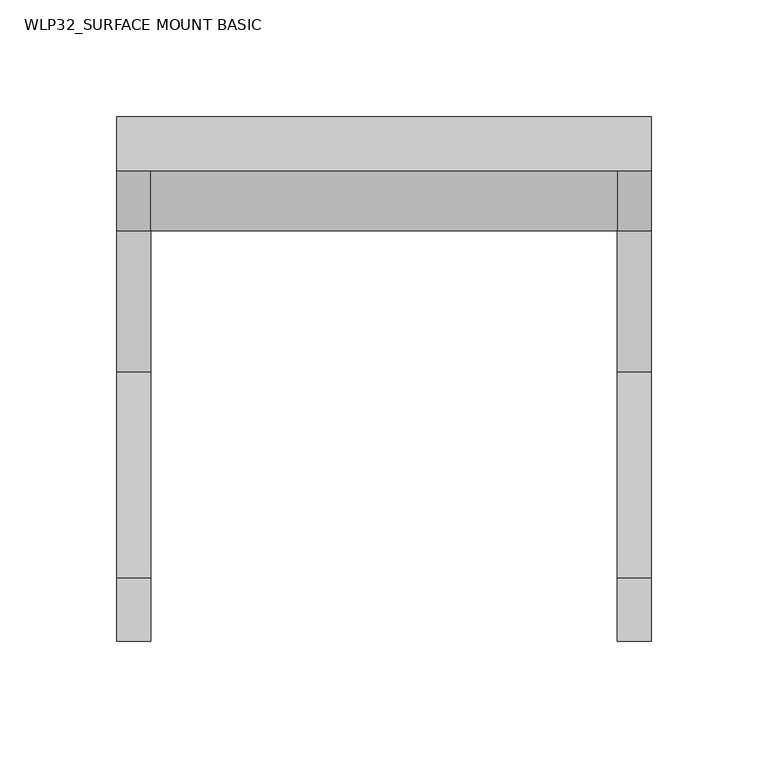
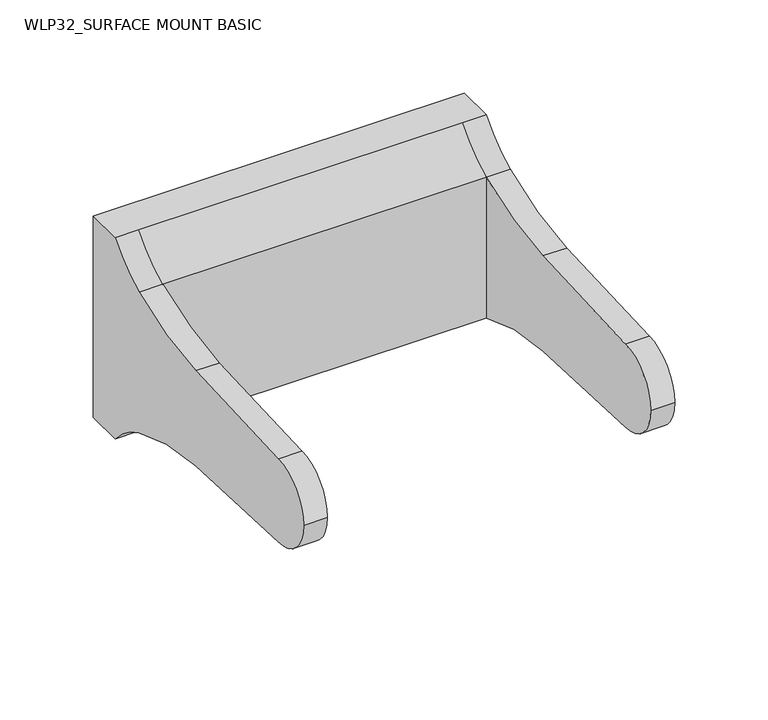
"""IFC4 building model written with IfcOpenShell, lengths in millimetres: light fixture geometry, WLP32_SURFACE MOUNT BASIC : WLP32-80W-T40."""

from ifc_helpers import new_model, si_unit, point, frame, frame_2d, origin, place, context, project, spatial, polyline, circle_curve, trimmed, segment, composite_curve, outline, extrude, source, transform, mapped, element, save
from ifc_brep_helpers import plane_surface, cylinder_surface, revolved_surface, advanced_brep


def wlp32_surface_mount_basic_5069ddbf(model_context):
    return source(origin(), model_context, "Body", "SolidModel", [
        extrude(outline(polyline([(46.0837738, -123.5374981), (-46.0837738, -123.5374981), (-46.0837738, 31.4624252), (46.0837738, 31.4624252), (46.0837738, -123.5374981)]), holes=[composite_curve([segment(trimmed(circle_curve(frame_2d((0.0, -46.0375)), 25.0000305), [point((-23.1246944, -55.5375019))], [point((-23.1246944, -36.5374981))], True, "CARTESIAN"), True, "CONTINUOUS"), segment(polyline([(-23.1246944, -36.5374981), (-33.4999695, -36.5374981)]), True, "CONTINUOUS"), segment(trimmed(circle_curve(frame_2d((-33.4999695, -46.0375)), 9.5000019), [point((-33.4999695, -36.5374981))], [point((-33.4999695, -55.5375019))], True, "CARTESIAN"), True, "CONTINUOUS"), segment(polyline([(-33.4999695, -55.5375019), (-23.1246944, -55.5375019)]), True, "CONTINUOUS")], self_intersect=False), composite_curve([segment(polyline([(37.5417709, 21.4625019), (37.5417709, 15.4044666)]), True, "CONTINUOUS"), segment(trimmed(circle_curve(frame_2d((40.0208969, 15.4044666)), 2.479126), [point((37.5417709, 15.4044666))], [point((42.5000229, 15.4044666))], True, "CARTESIAN"), True, "CONTINUOUS"), segment(polyline([(42.5000229, 15.4044666), (42.5000229, 21.4625019)]), True, "CONTINUOUS"), segment(trimmed(circle_curve(frame_2d((40.0208969, 21.4625019)), 2.479126), [point((42.5000229, 21.4625019))], [point((37.5417709, 21.4625019))], True, "CARTESIAN"), True, "CONTINUOUS")], self_intersect=False), composite_curve([segment(trimmed(circle_curve(frame_2d((-40.0208969, 21.4625019)), 2.479126), [point((-37.5417709, 21.4625019))], [point((-42.5000229, 21.4625019))], True, "CARTESIAN"), True, "CONTINUOUS"), segment(polyline([(-42.5000229, 21.4625019), (-42.5000229, 15.4044666)]), True, "CONTINUOUS"), segment(trimmed(circle_curve(frame_2d((-40.0208969, 15.4044666)), 2.479126), [point((-42.5000229, 15.4044666))], [point((-37.5417709, 15.4044666))], True, "CARTESIAN"), True, "CONTINUOUS"), segment(polyline([(-37.5417709, 15.4044666), (-37.5417709, 21.4625019)]), True, "CONTINUOUS")], self_intersect=False), composite_curve([segment(trimmed(circle_curve(frame_2d((40.0208969, -113.5375019)), 2.479126), [point((37.5417709, -113.5375019))], [point((42.5000229, -113.5375019))], True, "CARTESIAN"), True, "CONTINUOUS"), segment(polyline([(42.5000229, -113.5375019), (42.5000229, -107.4794666)]), True, "CONTINUOUS"), segment(trimmed(circle_curve(frame_2d((40.0208969, -107.4794666)), 2.479126), [point((42.5000229, -107.4794666))], [point((37.5417709, -107.4794666))], True, "CARTESIAN"), True, "CONTINUOUS"), segment(polyline([(37.5417709, -107.4794666), (37.5417709, -113.5375019)]), True, "CONTINUOUS")], self_intersect=False), composite_curve([segment(polyline([(-37.5417709, -113.5375019), (-37.5417709, -107.4794666)]), True, "CONTINUOUS"), segment(trimmed(circle_curve(frame_2d((-40.0208969, -107.4794666)), 2.479126), [point((-37.5417709, -107.4794666))], [point((-42.5000229, -107.4794666))], True, "CARTESIAN"), True, "CONTINUOUS"), segment(polyline([(-42.5000229, -107.4794666), (-42.5000229, -113.5375019)]), True, "CONTINUOUS"), segment(trimmed(circle_curve(frame_2d((-40.0208969, -113.5375019)), 2.479126), [point((-42.5000229, -113.5375019))], [point((-37.5417709, -113.5375019))], True, "CARTESIAN"), True, "CONTINUOUS")], self_intersect=False), composite_curve([segment(trimmed(circle_curve(frame_2d((0.0, -46.0375)), 37.6976615), [point((30.068138, -23.2994095))], [point((22.8799386, -16.077158))], True, "CARTESIAN"), True, "CONTINUOUS"), segment(trimmed(circle_curve(frame_2d((21.5093333, -18.1431525)), 2.4792927), [point((22.8799386, -16.077158))], [point((19.8770535, -20.009313))], True, "CARTESIAN"), True, "CONTINUOUS"), segment(trimmed(circle_curve(frame_2d((0.0, -46.0375)), 32.7500194), [point((19.8770535, -20.009313))], [point((26.1218353, -26.2836777))], False, "CARTESIAN"), True, "CONTINUOUS"), segment(trimmed(circle_curve(frame_2d((27.8844687, -24.5131613)), 2.4983204), [point((26.1218353, -26.2836777))], [point((30.068138, -23.2994095))], True, "CARTESIAN"), True, "CONTINUOUS")], self_intersect=False), composite_curve([segment(trimmed(circle_curve(frame_2d((34.750843, -18.3048068)), 2.5303312), [point((32.9432939, -20.0754966))], [point((36.8949949, -16.9612339))], True, "CARTESIAN"), True, "CONTINUOUS"), segment(trimmed(circle_curve(frame_2d((0.0, -46.0375)), 46.9752052), [point((36.8949949, -16.9612339))], [point((29.0929391, -9.1556509))], True, "CARTESIAN"), True, "CONTINUOUS"), segment(trimmed(circle_curve(frame_2d((27.724914, -11.2806714)), 2.5272921), [point((29.0929391, -9.1556509))], [point((25.9768906, -13.1059438))], True, "CARTESIAN"), True, "CONTINUOUS"), segment(trimmed(circle_curve(frame_2d((0.0, -46.0375)), 41.9438462), [point((25.9768906, -13.1059438))], [point((32.9432939, -20.0754966))], False, "CARTESIAN"), True, "CONTINUOUS")], self_intersect=False), composite_curve([segment(trimmed(circle_curve(frame_2d((27.8844687, -67.5618387)), 2.4983204), [point((30.068138, -68.7755905))], [point((26.1218353, -65.7913223))], True, "CARTESIAN"), True, "CONTINUOUS"), segment(trimmed(circle_curve(frame_2d((0.0, -46.0375)), 32.7500194), [point((26.1218353, -65.7913223))], [point((19.8770535, -72.065687))], False, "CARTESIAN"), True, "CONTINUOUS"), segment(trimmed(circle_curve(frame_2d((21.5093333, -73.9318475)), 2.4792927), [point((19.8770535, -72.065687))], [point((22.8799386, -75.997842))], True, "CARTESIAN"), True, "CONTINUOUS"), segment(trimmed(circle_curve(frame_2d((0.0, -46.0375)), 37.6976615), [point((22.8799386, -75.997842))], [point((30.068138, -68.7755905))], True, "CARTESIAN"), True, "CONTINUOUS")], self_intersect=False), composite_curve([segment(trimmed(circle_curve(frame_2d((0.0, -46.0375)), 41.9438462), [point((32.9432939, -71.9995034))], [point((25.9768906, -78.9690562))], False, "CARTESIAN"), True, "CONTINUOUS"), segment(trimmed(circle_curve(frame_2d((27.724914, -80.7943286)), 2.5272921), [point((25.9768906, -78.9690562))], [point((29.0929391, -82.9193491))], True, "CARTESIAN"), True, "CONTINUOUS"), segment(trimmed(circle_curve(frame_2d((0.0, -46.0375)), 46.9752052), [point((29.0929391, -82.9193491))], [point((36.8949949, -75.1137661))], True, "CARTESIAN"), True, "CONTINUOUS"), segment(trimmed(circle_curve(frame_2d((34.750843, -73.7701932)), 2.5303312), [point((36.8949949, -75.1137661))], [point((32.9432939, -71.9995034))], True, "CARTESIAN"), True, "CONTINUOUS")], self_intersect=False), composite_curve([segment(trimmed(circle_curve(frame_2d((-27.8844687, -24.5131613)), 2.4983204), [point((-30.068138, -23.2994095))], [point((-26.1218353, -26.2836777))], True, "CARTESIAN"), True, "CONTINUOUS"), segment(trimmed(circle_curve(frame_2d((0.0, -46.0375)), 32.7500194), [point((-26.1218353, -26.2836777))], [point((-19.8770535, -20.009313))], False, "CARTESIAN"), True, "CONTINUOUS"), segment(trimmed(circle_curve(frame_2d((-21.5093333, -18.1431525)), 2.4792927), [point((-19.8770535, -20.009313))], [point((-22.8799386, -16.077158))], True, "CARTESIAN"), True, "CONTINUOUS"), segment(trimmed(circle_curve(frame_2d((0.0, -46.0375)), 37.6976615), [point((-22.8799386, -16.077158))], [point((-30.068138, -23.2994095))], True, "CARTESIAN"), True, "CONTINUOUS")], self_intersect=False), composite_curve([segment(trimmed(circle_curve(frame_2d((0.0, -46.0375)), 41.9438462), [point((-32.9432939, -20.0754966))], [point((-25.9768906, -13.1059438))], False, "CARTESIAN"), True, "CONTINUOUS"), segment(trimmed(circle_curve(frame_2d((-27.724914, -11.2806714)), 2.5272921), [point((-25.9768906, -13.1059438))], [point((-29.0929391, -9.1556509))], True, "CARTESIAN"), True, "CONTINUOUS"), segment(trimmed(circle_curve(frame_2d((0.0, -46.0375)), 46.9752052), [point((-29.0929391, -9.1556509))], [point((-36.8949949, -16.9612339))], True, "CARTESIAN"), True, "CONTINUOUS"), segment(trimmed(circle_curve(frame_2d((-34.750843, -18.3048068)), 2.5303312), [point((-36.8949949, -16.9612339))], [point((-32.9432939, -20.0754966))], True, "CARTESIAN"), True, "CONTINUOUS")], self_intersect=False), composite_curve([segment(trimmed(circle_curve(frame_2d((0.0, -46.0375)), 37.6976615), [point((-30.068138, -68.7755905))], [point((-22.8799386, -75.997842))], True, "CARTESIAN"), True, "CONTINUOUS"), segment(trimmed(circle_curve(frame_2d((-21.5093333, -73.9318475)), 2.4792927), [point((-22.8799386, -75.997842))], [point((-19.8770535, -72.065687))], True, "CARTESIAN"), True, "CONTINUOUS"), segment(trimmed(circle_curve(frame_2d((0.0, -46.0375)), 32.7500194), [point((-19.8770535, -72.065687))], [point((-26.1218353, -65.7913223))], False, "CARTESIAN"), True, "CONTINUOUS"), segment(trimmed(circle_curve(frame_2d((-27.8844687, -67.5618387)), 2.4983204), [point((-26.1218353, -65.7913223))], [point((-30.068138, -68.7755905))], True, "CARTESIAN"), True, "CONTINUOUS")], self_intersect=False), composite_curve([segment(trimmed(circle_curve(frame_2d((-34.750843, -73.7701932)), 2.5303312), [point((-32.9432939, -71.9995034))], [point((-36.8949949, -75.1137661))], True, "CARTESIAN"), True, "CONTINUOUS"), segment(trimmed(circle_curve(frame_2d((0.0, -46.0375)), 46.9752052), [point((-36.8949949, -75.1137661))], [point((-29.0929391, -82.9193491))], True, "CARTESIAN"), True, "CONTINUOUS"), segment(trimmed(circle_curve(frame_2d((-27.724914, -80.7943286)), 2.5272921), [point((-29.0929391, -82.9193491))], [point((-25.9768906, -78.9690562))], True, "CARTESIAN"), True, "CONTINUOUS"), segment(trimmed(circle_curve(frame_2d((0.0, -46.0375)), 41.9438462), [point((-25.9768906, -78.9690562))], [point((-32.9432939, -71.9995034))], False, "CARTESIAN"), True, "CONTINUOUS")], self_intersect=False)]), frame((0.0, -41.3330571, 0.0), z_axis=(0.0, 1.0, 0.0), x_axis=(0.0, 0.0, 1.0)), (0.0, 0.0, 1.0), 3.4449947),
        advanced_brep(
        [(-160.734375, -33.7992882, -65.88125), (-160.734375, -33.7992882, 65.88125), (68.659375, -33.7992882, 65.88125), (68.659375, -33.7992882, -65.88125), (-146.0375057, -33.7992882, -46.0837738), (53.9625057, -33.7992882, -46.0837738), (53.9625057, -33.7992882, 46.0837738), (-146.0375057, -33.7992882, 46.0837738), (-146.0375057, -56.9478594, 65.88125), (53.9625057, -56.9478594, 65.88125), (68.659375, -56.9478594, 65.88125), (-160.734375, -56.9478594, 65.88125), (-146.0375057, -82.799281, 46.0837738), (53.9625057, -82.799281, 46.0837738), (53.9625057, -82.799281, -46.0837738), (-146.0375057, -82.799281, -46.0837738), (-146.0375057, -56.9478594, -65.88125), (53.9625057, -56.9478594, -65.88125), (-160.734375, -56.9478594, -65.88125), (68.659375, -56.9478594, -65.88125), (-146.0375057, -54.2992694, 46.0837738), (53.9625057, -54.2992694, 46.0837738), (53.9625057, -54.2992694, -46.0837738), (-146.0375057, -54.2992694, -46.0837738), (68.659375, -82.799281, 46.0837738), (68.659375, -143.2084492, 31.1662216), (68.659375, -231.672268, 27.1380505), (68.659375, -258.8103185, 0.0), (68.659375, -231.672268, -27.1380505), (68.659375, -143.2084492, -31.1662216), (68.659375, -82.799281, -46.0837738), (53.9625057, -143.2084492, -31.1662216), (53.9625057, -231.672268, -27.1380505), (53.9625057, -258.8103185, 0.0), (53.9625057, -231.672268, 27.1380505), (53.9625057, -143.2084492, 31.1662216), (-146.0375057, -143.2084492, 31.1662216), (-146.0375057, -231.672268, 27.1380505), (-146.0375057, -258.8103185, 0.0), (-146.0375057, -231.672268, -27.1380505), (-146.0375057, -143.2084492, -31.1662216), (-160.734375, -82.799281, -46.0837738), (-160.734375, -143.2084492, -31.1662216), (-160.734375, -231.672268, -27.1380505), (-160.734375, -258.8103185, 0.0), (-160.734375, -231.672268, 27.1380505), (-160.734375, -143.2084492, 31.1662216), (-160.734375, -82.799281, 46.0837738)],
        [
            (0, 1),
            (1, 2),
            (2, 3),
            (3, 0),
            (4, 5),
            (5, 6),
            (6, 7),
            (7, 4),
            (8, 9),
            (9, 10),
            (10, 2),
            (1, 11),
            (11, 8),
            (8, 12, circle_curve(frame((-146.0375057, -112.2000779, 111.2522031), z_axis=(-1.0, 0.0, 0.0), x_axis=(0.0, 1.0, 0.0)), 71.4935734)),
            (12, 13),
            (13, 9, circle_curve(frame((53.9625057, -112.2000779, 111.2522031), z_axis=(1.0, 0.0, 0.0), x_axis=(0.0, 1.0, 0.0)), 71.4935734)),
            (14, 15),
            (15, 16, circle_curve(frame((-146.0375057, -112.2000779, -111.2522031), z_axis=(-1.0, 0.0, 0.0), x_axis=(0.0, 1.0, 0.0)), 71.4935734)),
            (16, 17),
            (17, 14, circle_curve(frame((53.9625057, -112.2000779, -111.2522031), z_axis=(1.0, 0.0, 0.0), x_axis=(0.0, 1.0, 0.0)), 71.4935734)),
            (16, 18),
            (18, 0),
            (3, 19),
            (19, 17),
            (12, 15),
            (14, 13),
            (20, 21),
            (21, 22),
            (22, 23),
            (23, 20),
            (22, 5),
            (4, 23),
            (20, 7),
            (6, 21),
            (10, 24, circle_curve(frame((68.659375, -112.2000779, 111.2522031), z_axis=(-1.0, 0.0, 0.0), x_axis=(0.0, 1.0, 0.0)), 71.4935734)),
            (24, 25, circle_curve(frame((68.659375, -153.5982617, 203.0134777), z_axis=(-1.0, 0.0, 0.0), x_axis=(0.0, 1.0, 0.0)), 172.1610514)),
            (25, 26, circle_curve(frame((68.659375, -322.759847, 3000.9421601), z_axis=(-1.0, 0.0, 0.0), x_axis=(0.0, 1.0, 0.0)), 2975.1987882)),
            (26, 27, circle_curve(frame((68.659375, -231.672268, 0.0), z_axis=(1.0, 0.0, 0.0), x_axis=(0.0, 1.0, 0.0)), 27.1380505)),
            (27, 28, circle_curve(frame((68.659375, -231.672268, 0.0), z_axis=(1.0, 0.0, 0.0), x_axis=(0.0, 1.0, 0.0)), 27.1380505)),
            (28, 29, circle_curve(frame((68.659375, -322.759847, -3000.9421601), z_axis=(-1.0, 0.0, 0.0), x_axis=(0.0, 1.0, 0.0)), 2975.1987882)),
            (29, 30, circle_curve(frame((68.659375, -153.5982617, -203.0134777), z_axis=(-1.0, 0.0, 0.0), x_axis=(0.0, 1.0, 0.0)), 172.1610514)),
            (30, 19, circle_curve(frame((68.659375, -112.2000779, -111.2522031), z_axis=(-1.0, 0.0, 0.0), x_axis=(0.0, 1.0, 0.0)), 71.4935734)),
            (14, 31, circle_curve(frame((53.9625057, -153.5982617, -203.0134777), z_axis=(1.0, 0.0, 0.0), x_axis=(0.0, 1.0, 0.0)), 172.1610514)),
            (31, 32, circle_curve(frame((53.9625057, -322.759847, -3000.9421601), z_axis=(1.0, 0.0, 0.0), x_axis=(0.0, 1.0, 0.0)), 2975.1987882)),
            (32, 33, circle_curve(frame((53.9625057, -231.672268, 0.0), z_axis=(-1.0, 0.0, 0.0), x_axis=(0.0, 1.0, 0.0)), 27.1380505)),
            (33, 34, circle_curve(frame((53.9625057, -231.672268, 0.0), z_axis=(-1.0, 0.0, 0.0), x_axis=(0.0, 1.0, 0.0)), 27.1380505)),
            (34, 35, circle_curve(frame((53.9625057, -322.759847, 3000.9421601), z_axis=(1.0, 0.0, 0.0), x_axis=(0.0, 1.0, 0.0)), 2975.1987882)),
            (35, 13, circle_curve(frame((53.9625057, -153.5982617, 203.0134777), z_axis=(1.0, 0.0, 0.0), x_axis=(0.0, 1.0, 0.0)), 172.1610514)),
            (13, 24),
            (35, 25),
            (29, 31),
            (14, 30),
            (12, 36, circle_curve(frame((-146.0375057, -153.5982617, 203.0134777), z_axis=(-1.0, 0.0, 0.0), x_axis=(0.0, 1.0, 0.0)), 172.1610514)),
            (36, 37, circle_curve(frame((-146.0375057, -322.759847, 3000.9421601), z_axis=(-1.0, 0.0, 0.0), x_axis=(0.0, 1.0, 0.0)), 2975.1987882)),
            (37, 38, circle_curve(frame((-146.0375057, -231.672268, 0.0), z_axis=(1.0, 0.0, 0.0), x_axis=(0.0, 1.0, 0.0)), 27.1380505)),
            (38, 39, circle_curve(frame((-146.0375057, -231.672268, 0.0), z_axis=(1.0, 0.0, 0.0), x_axis=(0.0, 1.0, 0.0)), 27.1380505)),
            (39, 40, circle_curve(frame((-146.0375057, -322.759847, -3000.9421601), z_axis=(-1.0, 0.0, 0.0), x_axis=(0.0, 1.0, 0.0)), 2975.1987882)),
            (40, 15, circle_curve(frame((-146.0375057, -153.5982617, -203.0134777), z_axis=(-1.0, 0.0, 0.0), x_axis=(0.0, 1.0, 0.0)), 172.1610514)),
            (18, 41, circle_curve(frame((-160.734375, -112.2000779, -111.2522031), z_axis=(1.0, 0.0, 0.0), x_axis=(0.0, 1.0, 0.0)), 71.4935734)),
            (41, 42, circle_curve(frame((-160.734375, -153.5982617, -203.0134777), z_axis=(1.0, 0.0, 0.0), x_axis=(0.0, 1.0, 0.0)), 172.1610514)),
            (42, 43, circle_curve(frame((-160.734375, -322.759847, -3000.9421601), z_axis=(1.0, 0.0, 0.0), x_axis=(0.0, 1.0, 0.0)), 2975.1987882)),
            (43, 44, circle_curve(frame((-160.734375, -231.672268, 0.0), z_axis=(-1.0, 0.0, 0.0), x_axis=(0.0, 1.0, 0.0)), 27.1380505)),
            (44, 45, circle_curve(frame((-160.734375, -231.672268, 0.0), z_axis=(-1.0, 0.0, 0.0), x_axis=(0.0, 1.0, 0.0)), 27.1380505)),
            (45, 46, circle_curve(frame((-160.734375, -322.759847, 3000.9421601), z_axis=(1.0, 0.0, 0.0), x_axis=(0.0, 1.0, 0.0)), 2975.1987882)),
            (46, 47, circle_curve(frame((-160.734375, -153.5982617, 203.0134777), z_axis=(1.0, 0.0, 0.0), x_axis=(0.0, 1.0, 0.0)), 172.1610514)),
            (47, 11, circle_curve(frame((-160.734375, -112.2000779, 111.2522031), z_axis=(1.0, 0.0, 0.0), x_axis=(0.0, 1.0, 0.0)), 71.4935734)),
            (47, 12),
            (46, 36),
            (40, 42),
            (41, 15),
            (45, 37),
            (44, 38),
            (43, 39),
            (34, 26),
            (33, 27),
            (32, 28),
        ],
        [
            plane_surface(frame((53.9625057, -33.7992882, -65.88125), z_axis=(0.0, 1.0, 0.0), x_axis=(-1.0, 0.0, 0.0))),
            plane_surface(frame((53.9625057, -33.7992882, 65.88125), z_axis=(0.0, 0.0, 1.0), x_axis=(-1.0, 0.0, 0.0))),
            revolved_surface(polyline([(-146.0375057, -40.706504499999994, 111.2522031), (53.96250570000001, -40.706504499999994, 111.2522031)]), (-146.0375057, -112.2000779, 111.2522031), (-1.0, 0.0, 0.0)),
            revolved_surface(polyline([(-146.0375057, -40.706504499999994, -111.2522031), (53.96250570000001, -40.706504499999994, -111.2522031)]), (-146.0375057, -112.2000779, -111.2522031), (-1.0, 0.0, 0.0)),
            plane_surface(frame((53.9625057, -56.9478594, -65.88125), z_axis=(0.0, 0.0, -1.0), x_axis=(-1.0, 0.0, 0.0))),
            plane_surface(frame((53.9625057, -82.799281, 46.0837738), z_axis=(0.0, -1.0, 0.0), x_axis=(-1.0, 0.0, 0.0))),
            plane_surface(frame((-146.0375057, -54.2992694, 46.0837738), z_axis=(0.0, 1.0, 0.0), x_axis=(0.0, 0.0, -1.0))),
            plane_surface(frame((-146.0375057, -54.2992694, -46.0837738), z_axis=(0.0, 0.0, 1.0), x_axis=(0.0, 1.0, 0.0))),
            plane_surface(frame((53.9625057, -54.2992694, 46.0837738), z_axis=(0.0, 0.0, -1.0), x_axis=(0.0, 1.0, 0.0))),
            plane_surface(frame((68.659375, -33.7992882, 65.88125), z_axis=(1.0, 0.0, 0.0), x_axis=(0.0, 0.0, 1.0))),
            plane_surface(frame((53.9625057, -33.7992882, 65.88125), z_axis=(-1.0, 0.0, 0.0), x_axis=(0.0, 0.0, -1.0))),
            revolved_surface(polyline([(53.9625057, -40.706504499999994, 111.2522031), (68.659375, -40.706504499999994, 111.2522031)]), (53.9625057, -112.2000779, 111.2522031), (-1.0, 0.0, 0.0)),
            revolved_surface(polyline([(53.9625057, 18.562789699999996, 203.0134777), (68.659375, 18.562789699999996, 203.0134777)]), (53.9625057, -153.5982617, 203.0134777), (-1.0, 0.0, 0.0)),
            revolved_surface(polyline([(53.9625057, 18.562789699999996, -203.0134777), (68.659375, 18.562789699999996, -203.0134777)]), (53.9625057, -153.5982617, -203.0134777), (-1.0, 0.0, 0.0)),
            revolved_surface(polyline([(53.9625057, -40.706504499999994, -111.2522031), (68.659375, -40.706504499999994, -111.2522031)]), (53.9625057, -112.2000779, -111.2522031), (-1.0, 0.0, 0.0)),
            plane_surface(frame((-146.0375057, -33.7992882, 65.88125), z_axis=(1.0, 0.0, 0.0), x_axis=(0.0, 0.0, 1.0))),
            plane_surface(frame((-160.734375, -33.7992882, 65.88125), z_axis=(-1.0, 0.0, 0.0), x_axis=(0.0, 0.0, -1.0))),
            revolved_surface(polyline([(-160.734375, -40.706504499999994, 111.2522031), (-146.0375057, -40.706504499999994, 111.2522031)]), (-160.734375, -112.2000779, 111.2522031), (-1.0, 0.0, 0.0)),
            revolved_surface(polyline([(-160.734375, 18.562789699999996, 203.0134777), (-146.0375057, 18.562789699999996, 203.0134777)]), (-160.734375, -153.5982617, 203.0134777), (-1.0, 0.0, 0.0)),
            revolved_surface(polyline([(-160.734375, 18.562789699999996, -203.0134777), (-146.0375057, 18.562789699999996, -203.0134777)]), (-160.734375, -153.5982617, -203.0134777), (-1.0, 0.0, 0.0)),
            revolved_surface(polyline([(-160.734375, -40.706504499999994, -111.2522031), (-146.0375057, -40.706504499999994, -111.2522031)]), (-160.734375, -112.2000779, -111.2522031), (-1.0, 0.0, 0.0)),
            revolved_surface(polyline([(-160.734375, 2652.4389412, 3000.9421601), (-146.0375057, 2652.4389412, 3000.9421601)]), (-160.734375, -322.759847, 3000.9421601), (-1.0, 0.0, 0.0)),
            cylinder_surface(frame((-160.734375, -231.672268, 0.0), z_axis=(1.0, 0.0, 0.0), x_axis=(0.0, 1.0, 0.0)), 27.1380505),
            revolved_surface(polyline([(-160.734375, 2652.4389412, -3000.9421601), (-146.0375057, 2652.4389412, -3000.9421601)]), (-160.734375, -322.759847, -3000.9421601), (-1.0, 0.0, 0.0)),
            revolved_surface(polyline([(53.9625057, 2652.4389412, 3000.9421601), (68.659375, 2652.4389412, 3000.9421601)]), (53.9625057, -322.759847, 3000.9421601), (-1.0, 0.0, 0.0)),
            cylinder_surface(frame((53.9625057, -231.672268, 0.0), z_axis=(1.0, 0.0, 0.0), x_axis=(0.0, 1.0, 0.0)), 27.1380505),
            revolved_surface(polyline([(53.9625057, 2652.4389412, -3000.9421601), (68.659375, 2652.4389412, -3000.9421601)]), (53.9625057, -322.759847, -3000.9421601), (-1.0, 0.0, 0.0)),
        ],
        [
            (0, [[1, 2, 3, 4], [5, 6, 7, 8]]),
            (1, [[9, 10, 11, -2, 12, 13]]),
            (2, [[-9, 14, 15, 16]]),
            (3, [[17, 18, 19, 20]]),
            (4, [[-19, 21, 22, -4, 23, 24]]),
            (5, [[-15, 25, -17, 26]]),
            (6, [[27, 28, 29, 30]]),
            (7, [[-29, 31, -5, 32]]),
            (8, [[-27, 33, -7, 34]]),
            (9, [[-3, -11, 35, 36, 37, 38, 39, 40, 41, 42, -23]]),
            (10, [[-6, -31, -28, -34]]),
            (10, [[43, 44, 45, 46, 47, 48, -26]]),
            (11, [[-35, -10, -16, 49]]),
            (12, [[-36, -49, -48, 50]]),
            (13, [[-41, 51, -43, 52]]),
            (14, [[-42, -52, -20, -24]]),
            (15, [[-8, -33, -30, -32]]),
            (15, [[53, 54, 55, 56, 57, 58, -25]]),
            (16, [[-22, 59, 60, 61, 62, 63, 64, 65, 66, -12, -1]]),
            (17, [[-66, 67, -14, -13]]),
            (18, [[-53, -67, -65, 68]]),
            (19, [[-58, 69, -60, 70]]),
            (20, [[-59, -21, -18, -70]]),
            (21, [[-54, -68, -64, 71]]),
            (22, [[-55, -71, -63, 72]]),
            (22, [[-56, -72, -62, 73]]),
            (23, [[-57, -73, -61, -69]]),
            (24, [[-37, -50, -47, 74]]),
            (25, [[-38, -74, -46, 75]]),
            (25, [[-39, -75, -45, 76]]),
            (26, [[-40, -76, -44, -51]]),
        ],
    ),
    ])


if __name__ == "__main__":
    model = new_model("IFC4")
    model_context = context("Model", 3, world=origin())
    ifc_project = project(units=[si_unit("LENGTHUNIT", "METRE", prefix="MILLI")], contexts=[model_context])
    site = spatial("IfcSite", under=ifc_project)
    building = spatial("IfcBuilding", under=site)
    placement = place(None, origin())
    wlp32_surface_mount_basic_shape = wlp32_surface_mount_basic_5069ddbf(model_context)
    element("IfcLightFixture", 1, ObjectType="WLP32_SURFACE MOUNT BASIC : WLP32-80W-T40", at=placement, inside=building, context=model_context, shape_type="MappedRepresentation", body=[
        mapped(wlp32_surface_mount_basic_shape, transform((0.0, 0.0, 0.0), x_axis=(1.0, 0.0, 0.0), y_axis=(0.0, 1.0, 0.0), z_axis=(0.0, 0.0, 1.0))),
    ])
    save(model, "model.ifc")
